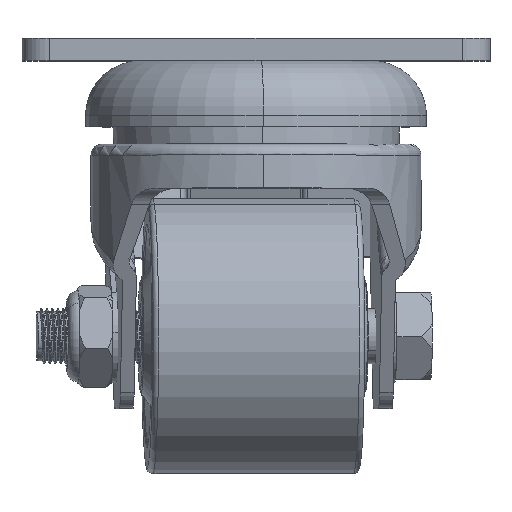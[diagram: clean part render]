
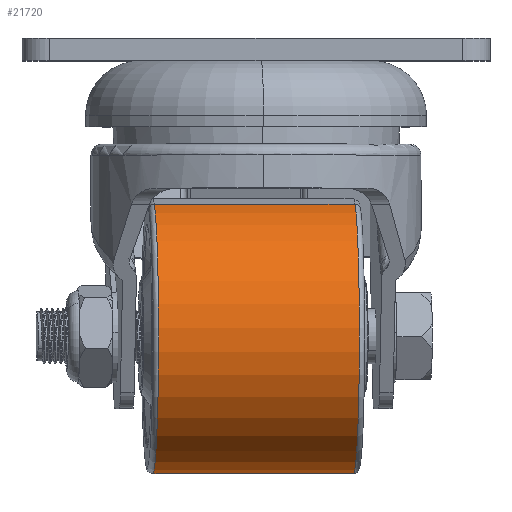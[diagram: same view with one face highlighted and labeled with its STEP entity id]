
A CAD part, top view. The second image highlights one B-rep face of the part: STEP entity #21720.
In plain terms, the highlighted cylindrical face has radius 25 mm (diameter 50 mm), a partial arc.
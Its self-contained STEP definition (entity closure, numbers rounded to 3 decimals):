
#747 = DIRECTION ( 'NONE',  ( 0., -1., 0. ) ) ;
#996 = VERTEX_POINT ( 'NONE', #10181 ) ;
#1268 = DIRECTION ( 'NONE',  ( 0., 0., -1. ) ) ;
#1475 = EDGE_CURVE ( 'NONE', #7813, #32523, #33250, .T. ) ;
#2361 = EDGE_CURVE ( 'NONE', #32523, #23526, #34288, .T. ) ;
#2968 = DIRECTION ( 'NONE',  ( 0., -1., 0. ) ) ;
#3348 = CARTESIAN_POINT ( 'NONE',  ( 0., 0., 0. ) ) ;
#3653 = VECTOR ( 'NONE', #16127, 1000. ) ;
#3981 = CIRCLE ( 'NONE', #15430, 25. ) ;
#5493 = EDGE_CURVE ( 'NONE', #7813, #996, #30856, .T. ) ;
#7813 = VERTEX_POINT ( 'NONE', #25580 ) ;
#8810 = CARTESIAN_POINT ( 'NONE',  ( 0., 0., 25. ) ) ;
#10181 = CARTESIAN_POINT ( 'NONE',  ( 0., -18.25, -25. ) ) ;
#12441 = AXIS2_PLACEMENT_3D ( 'NONE', #3348, #747, #31220 ) ;
#12671 = FACE_OUTER_BOUND ( 'NONE', #36547, .T. ) ;
#15090 = DIRECTION ( 'NONE',  ( 0., 0., 1. ) ) ;
#15373 = ORIENTED_EDGE ( 'NONE', *, *, #33864, .T. ) ;
#15430 = AXIS2_PLACEMENT_3D ( 'NONE', #37523, #28541, #1268 ) ;
#15584 = VECTOR ( 'NONE', #30646, 1000. ) ;
#16127 = DIRECTION ( 'NONE',  ( 0., -1., 0. ) ) ;
#21457 = CYLINDRICAL_SURFACE ( 'NONE', #12441, 25. ) ;
#21720 = ADVANCED_FACE ( 'NONE', ( #12671 ), #21457, .T. ) ;
#23526 = VERTEX_POINT ( 'NONE', #31240 ) ;
#25580 = CARTESIAN_POINT ( 'NONE',  ( 0., 18.25, -25. ) ) ;
#25850 = ORIENTED_EDGE ( 'NONE', *, *, #1475, .T. ) ;
#28139 = AXIS2_PLACEMENT_3D ( 'NONE', #39234, #2968, #15090 ) ;
#28541 = DIRECTION ( 'NONE',  ( 0., 1., 0. ) ) ;
#30646 = DIRECTION ( 'NONE',  ( 0., -1., 0. ) ) ;
#30856 = LINE ( 'NONE', #39435, #15584 ) ;
#31220 = DIRECTION ( 'NONE',  ( 0., 0., -1. ) ) ;
#31240 = CARTESIAN_POINT ( 'NONE',  ( 0., -18.25, 25. ) ) ;
#31646 = ORIENTED_EDGE ( 'NONE', *, *, #5493, .F. ) ;
#32523 = VERTEX_POINT ( 'NONE', #33359 ) ;
#33250 = CIRCLE ( 'NONE', #28139, 25. ) ;
#33359 = CARTESIAN_POINT ( 'NONE',  ( 0., 18.25, 25. ) ) ;
#33864 = EDGE_CURVE ( 'NONE', #23526, #996, #3981, .T. ) ;
#34288 = LINE ( 'NONE', #8810, #3653 ) ;
#35125 = ORIENTED_EDGE ( 'NONE', *, *, #2361, .T. ) ;
#36547 = EDGE_LOOP ( 'NONE', ( #25850, #35125, #15373, #31646 ) ) ;
#37523 = CARTESIAN_POINT ( 'NONE',  ( 0., -18.25, 0. ) ) ;
#39234 = CARTESIAN_POINT ( 'NONE',  ( 0., 18.25, 0. ) ) ;
#39435 = CARTESIAN_POINT ( 'NONE',  ( 0., 0., -25. ) ) ;
